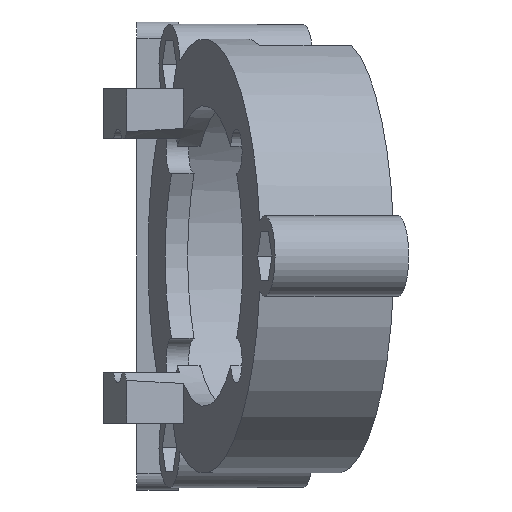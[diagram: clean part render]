
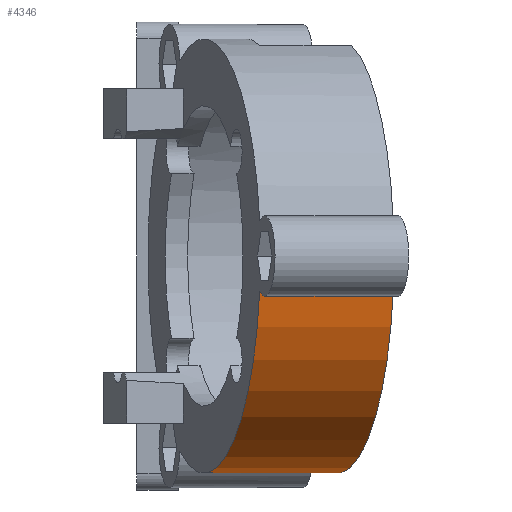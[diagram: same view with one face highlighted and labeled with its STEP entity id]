
A CAD part, left-side view. The second image highlights one B-rep face of the part: STEP entity #4346.
In plain terms, the highlighted cylindrical face has radius 26 mm (diameter 52 mm), a partial arc.
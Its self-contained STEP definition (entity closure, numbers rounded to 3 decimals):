
#45 = PLANE('',#46);
#46 = AXIS2_PLACEMENT_3D('',#47,#48,#49);
#47 = CARTESIAN_POINT('',(31.682,24.475,28.));
#48 = DIRECTION('',(0.259,-0.966,0.));
#49 = DIRECTION('',(0.966,0.259,0.));
#102 = PLANE('',#103);
#103 = AXIS2_PLACEMENT_3D('',#104,#105,#106);
#104 = CARTESIAN_POINT('',(35.966,8.489,28.));
#105 = DIRECTION('',(0.259,-0.966,0.)
  );
#106 = DIRECTION('',(0.966,0.259,0.)
  );
#249 = CYLINDRICAL_SURFACE('',#250,4.8);
#250 = AXIS2_PLACEMENT_3D('',#251,#252,#253);
#251 = CARTESIAN_POINT('',(4.636,17.228,28.));
#252 = DIRECTION('',(-0.259,0.966,0.)
  );
#253 = DIRECTION('',(0.966,0.259,0.)
  );
#1357 = CYLINDRICAL_SURFACE('',#1358,4.8);
#1358 = AXIS2_PLACEMENT_3D('',#1359,#1360,#1361);
#1359 = CARTESIAN_POINT('',(47.195,28.632,
    5.064));
#1360 = DIRECTION('',(-0.259,0.966,0.
    ));
#1361 = DIRECTION('',(0.966,0.259,0.)
  );
#4246 = VERTEX_POINT('',#4247);
#4247 = CARTESIAN_POINT('',(42.583,27.396,4.577
    ));
#4273 = EDGE_CURVE('',#4274,#4246,#4276,.T.);
#4274 = VERTEX_POINT('',#4275);
#4275 = CARTESIAN_POINT('',(46.866,11.41,
    4.577));
#4276 = SURFACE_CURVE('',#4277,(#4281,#4288),.PCURVE_S1.);
#4277 = LINE('',#4278,#4279);
#4278 = CARTESIAN_POINT('',(42.583,27.396,4.577
    ));
#4279 = VECTOR('',#4280,1.);
#4280 = DIRECTION('',(-0.259,0.966,0.
    ));
#4281 = PCURVE('',#1357,#4282);
#4282 = DEFINITIONAL_REPRESENTATION('',(#4283),#4287);
#4283 = LINE('',#4284,#4285);
#4284 = CARTESIAN_POINT('',(-3.243,0.));
#4285 = VECTOR('',#4286,1.);
#4286 = DIRECTION('',(-0.,1.));
#4287 = ( GEOMETRIC_REPRESENTATION_CONTEXT(2) 
PARAMETRIC_REPRESENTATION_CONTEXT() REPRESENTATION_CONTEXT('2D SPACE',''
  ) );
#4288 = PCURVE('',#4289,#4294);
#4289 = CYLINDRICAL_SURFACE('',#4290,26.);
#4290 = AXIS2_PLACEMENT_3D('',#4291,#4292,#4293);
#4291 = CARTESIAN_POINT('',(31.682,24.475,28.));
#4292 = DIRECTION('',(-0.259,0.966,0.
    ));
#4293 = DIRECTION('',(0.966,0.259,0.)
  );
#4294 = DEFINITIONAL_REPRESENTATION('',(#4295),#4299);
#4295 = LINE('',#4296,#4297);
#4296 = CARTESIAN_POINT('',(-5.161,0.));
#4297 = VECTOR('',#4298,1.);
#4298 = DIRECTION('',(-0.,1.));
#4299 = ( GEOMETRIC_REPRESENTATION_CONTEXT(2) 
PARAMETRIC_REPRESENTATION_CONTEXT() REPRESENTATION_CONTEXT('2D SPACE',''
  ) );
#4346 = ADVANCED_FACE('',(#4347),#4289,.T.);
#4347 = FACE_BOUND('',#4348,.F.);
#4348 = EDGE_LOOP('',(#4349,#4373,#4396,#4422));
#4349 = ORIENTED_EDGE('',*,*,#4350,.F.);
#4350 = EDGE_CURVE('',#4351,#4246,#4353,.T.);
#4351 = VERTEX_POINT('',#4352);
#4352 = CARTESIAN_POINT('',(6.897,17.834,
    23.809));
#4353 = SURFACE_CURVE('',#4354,(#4359,#4366),.PCURVE_S1.);
#4354 = CIRCLE('',#4355,26.);
#4355 = AXIS2_PLACEMENT_3D('',#4356,#4357,#4358);
#4356 = CARTESIAN_POINT('',(31.682,24.475,28.));
#4357 = DIRECTION('',(0.259,-0.966,0.)
  );
#4358 = DIRECTION('',(0.419,0.112,0.901));
#4359 = PCURVE('',#4289,#4360);
#4360 = DEFINITIONAL_REPRESENTATION('',(#4361),#4365);
#4361 = LINE('',#4362,#4363);
#4362 = CARTESIAN_POINT('',(-1.122,0.));
#4363 = VECTOR('',#4364,1.);
#4364 = DIRECTION('',(-1.,0.));
#4365 = ( GEOMETRIC_REPRESENTATION_CONTEXT(2) 
PARAMETRIC_REPRESENTATION_CONTEXT() REPRESENTATION_CONTEXT('2D SPACE',''
  ) );
#4366 = PCURVE('',#45,#4367);
#4367 = DEFINITIONAL_REPRESENTATION('',(#4368),#4372);
#4368 = CIRCLE('',#4369,26.);
#4369 = AXIS2_PLACEMENT_2D('',#4370,#4371);
#4370 = CARTESIAN_POINT('',(0.,0.));
#4371 = DIRECTION('',(0.434,0.901));
#4372 = ( GEOMETRIC_REPRESENTATION_CONTEXT(2) 
PARAMETRIC_REPRESENTATION_CONTEXT() REPRESENTATION_CONTEXT('2D SPACE',''
  ) );
#4373 = ORIENTED_EDGE('',*,*,#4374,.F.);
#4374 = EDGE_CURVE('',#4375,#4351,#4377,.T.);
#4375 = VERTEX_POINT('',#4376);
#4376 = CARTESIAN_POINT('',(11.18,1.848,
    23.809));
#4377 = SURFACE_CURVE('',#4378,(#4382,#4389),.PCURVE_S1.);
#4378 = LINE('',#4379,#4380);
#4379 = CARTESIAN_POINT('',(6.897,17.834,
    23.809));
#4380 = VECTOR('',#4381,1.);
#4381 = DIRECTION('',(-0.259,0.966,0.
    ));
#4382 = PCURVE('',#4289,#4383);
#4383 = DEFINITIONAL_REPRESENTATION('',(#4384),#4388);
#4384 = LINE('',#4385,#4386);
#4385 = CARTESIAN_POINT('',(-3.303,0.));
#4386 = VECTOR('',#4387,1.);
#4387 = DIRECTION('',(-0.,1.));
#4388 = ( GEOMETRIC_REPRESENTATION_CONTEXT(2) 
PARAMETRIC_REPRESENTATION_CONTEXT() REPRESENTATION_CONTEXT('2D SPACE',''
  ) );
#4389 = PCURVE('',#249,#4390);
#4390 = DEFINITIONAL_REPRESENTATION('',(#4391),#4395);
#4391 = LINE('',#4392,#4393);
#4392 = CARTESIAN_POINT('',(-5.222,0.));
#4393 = VECTOR('',#4394,1.);
#4394 = DIRECTION('',(-0.,1.));
#4395 = ( GEOMETRIC_REPRESENTATION_CONTEXT(2) 
PARAMETRIC_REPRESENTATION_CONTEXT() REPRESENTATION_CONTEXT('2D SPACE',''
  ) );
#4396 = ORIENTED_EDGE('',*,*,#4397,.F.);
#4397 = EDGE_CURVE('',#4274,#4375,#4398,.T.);
#4398 = SURFACE_CURVE('',#4399,(#4404,#4411),.PCURVE_S1.);
#4399 = CIRCLE('',#4400,26.);
#4400 = AXIS2_PLACEMENT_3D('',#4401,#4402,#4403);
#4401 = CARTESIAN_POINT('',(35.966,8.489,28.));
#4402 = DIRECTION('',(-0.259,0.966,0.
    ));
#4403 = DIRECTION('',(0.674,0.181,0.716));
#4404 = PCURVE('',#4289,#4405);
#4405 = DEFINITIONAL_REPRESENTATION('',(#4406),#4410);
#4406 = LINE('',#4407,#4408);
#4407 = CARTESIAN_POINT('',(-7.081,-16.55));
#4408 = VECTOR('',#4409,1.);
#4409 = DIRECTION('',(1.,-0.));
#4410 = ( GEOMETRIC_REPRESENTATION_CONTEXT(2) 
PARAMETRIC_REPRESENTATION_CONTEXT() REPRESENTATION_CONTEXT('2D SPACE',''
  ) );
#4411 = PCURVE('',#102,#4412);
#4412 = DEFINITIONAL_REPRESENTATION('',(#4413),#4421);
#4413 = ( BOUNDED_CURVE() B_SPLINE_CURVE(2,(#4414,#4415,#4416,#4417,
#4418,#4419,#4420),.UNSPECIFIED.,.T.,.F.) B_SPLINE_CURVE_WITH_KNOTS((1,2
    ,2,2,2,1),(-2.094,0.,2.094,4.189,
6.283,8.378),.UNSPECIFIED.) CURVE() 
GEOMETRIC_REPRESENTATION_ITEM() RATIONAL_B_SPLINE_CURVE((1.,0.5,1.,0.5,
1.,0.5,1.)) REPRESENTATION_ITEM('') );
#4414 = CARTESIAN_POINT('',(18.151,18.616));
#4415 = CARTESIAN_POINT('',(50.394,-12.823));
#4416 = CARTESIAN_POINT('',(7.046,-25.027));
#4417 = CARTESIAN_POINT('',(-36.302,-37.231));
#4418 = CARTESIAN_POINT('',(-25.197,6.411));
#4419 = CARTESIAN_POINT('',(-14.092,50.054));
#4420 = CARTESIAN_POINT('',(18.151,18.616));
#4421 = ( GEOMETRIC_REPRESENTATION_CONTEXT(2) 
PARAMETRIC_REPRESENTATION_CONTEXT() REPRESENTATION_CONTEXT('2D SPACE',''
  ) );
#4422 = ORIENTED_EDGE('',*,*,#4273,.T.);
